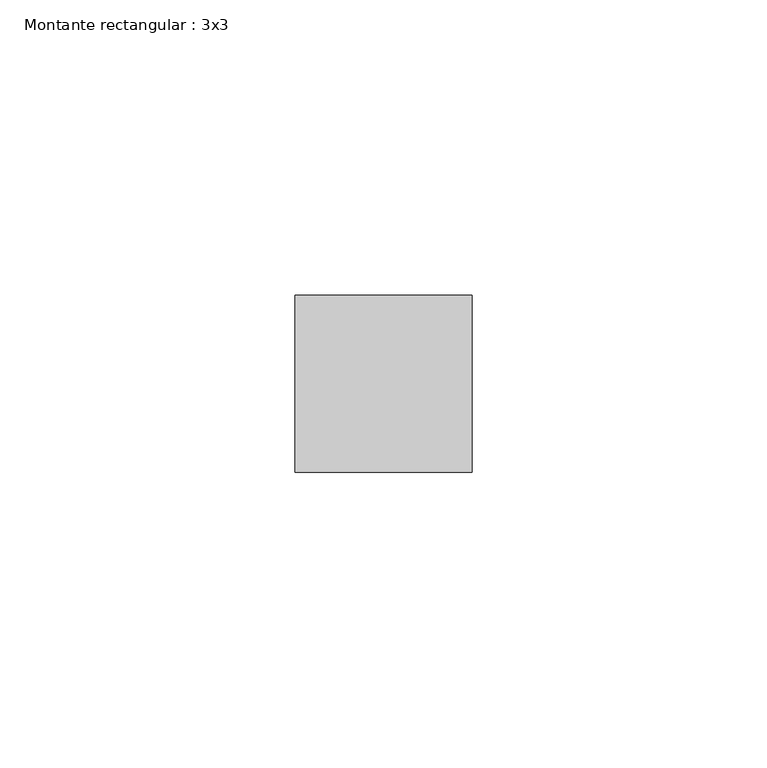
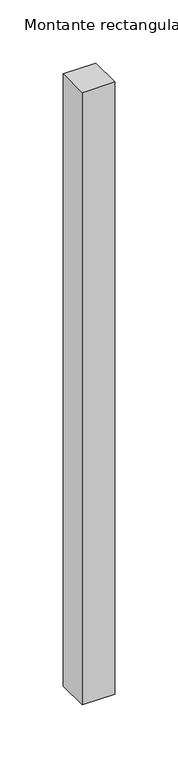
"""IFC4 building model written with IfcOpenShell, lengths in millimetres: member geometry, Montante rectangular : 3x3."""

from ifc_helpers import new_model, si_unit, frame, origin, place, context, project, spatial, polyline, outline, extrude, source, transform, mapped, element, save


def montante_rectangular_3x3_912540fd(model_context):
    return source(origin(), model_context, "Body", "SweptSolid", [
        extrude(outline(polyline([(0.0, 15.0), (0.0, -15.0), (-30.0, -15.0), (-30.0, 15.0), (0.0, 15.0)])), frame((0.0, 0.0, -592.242349), z_axis=(0.0, 0.0, 1.0), x_axis=(1.0, 0.0, 0.0)), (0.0, 0.0, 1.0), 592.242349),
    ])


if __name__ == "__main__":
    model = new_model("IFC4")
    model_context = context("Model", 3, world=origin())
    ifc_project = project(units=[si_unit("LENGTHUNIT", "METRE", prefix="MILLI")], contexts=[model_context])
    site = spatial("IfcSite", under=ifc_project)
    building = spatial("IfcBuilding", under=site)
    placement = place(None, origin())
    montante_rectangular_3x3_shape = montante_rectangular_3x3_912540fd(model_context)
    element("IfcMember", 1, ObjectType="Montante rectangular : 3x3", at=placement, inside=building, context=model_context, shape_type="MappedRepresentation", body=[
        mapped(montante_rectangular_3x3_shape, transform((0.0, 0.0, 0.0), x_axis=(1.0, 0.0, 0.0), y_axis=(0.0, 1.0, 0.0), z_axis=(0.0, 0.0, 1.0))),
    ])
    save(model, "model.ifc")
